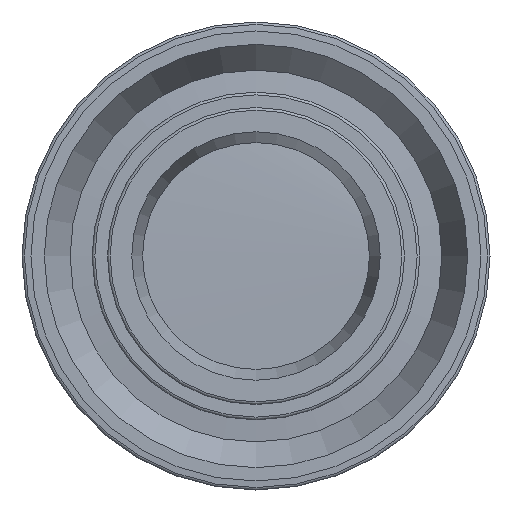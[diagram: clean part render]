
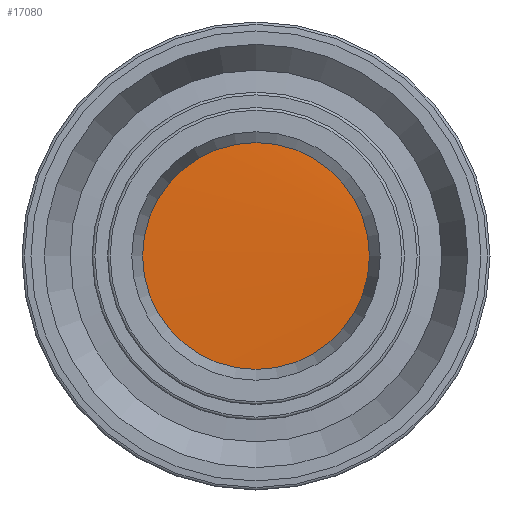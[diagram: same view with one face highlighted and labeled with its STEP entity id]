
A CAD part, left-side view. The second image highlights one B-rep face of the part: STEP entity #17080.
In plain terms, the highlighted cylindrical face has radius 10.45 mm (diameter 20.9 mm), a full revolution.
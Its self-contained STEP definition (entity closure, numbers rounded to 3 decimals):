
#1415=FACE_OUTER_BOUND('',#2396,.T.);
#2396=EDGE_LOOP('',(#11623,#11624,#11625));
#3481=B_SPLINE_CURVE_WITH_KNOTS('',3,(#22396,#22397,#22398,#22399,#22400,
#22401,#22402,#22403,#22404,#22405,#22406,#22407,#22408,#22409,#22410,#22411,
#22412,#22413,#22414,#22415,#22416,#22417,#22418,#22419,#22420,#22421,#22422,
#22423,#22424,#22425,#22426,#22427,#22428,#22429,#22430,#22431,#22432,#22433,
#22434,#22435,#22436,#22437,#22438),.UNSPECIFIED.,.F.,.F.,(4,3,3,3,3,3,
3,3,3,3,3,3,3,3,4),(-34.558,-34.204,-33.711,
-33.218,-32.725,-32.232,-31.739,
-31.246,-30.753,-30.26,-29.767,
-29.274,-28.78,-28.287,-28.274),
 .UNSPECIFIED.);
#4351=LINE('',#22393,#5746);
#4352=LINE('',#22395,#5747);
#5746=VECTOR('',#19051,10.45);
#5747=VECTOR('',#19052,10.45);
#7142=VERTEX_POINT('',#22391);
#7143=VERTEX_POINT('',#22392);
#7144=VERTEX_POINT('',#22394);
#8944=EDGE_CURVE('',#7142,#7143,#4351,.T.);
#8945=EDGE_CURVE('',#7142,#7144,#4352,.T.);
#8946=EDGE_CURVE('',#7144,#7143,#3481,.T.);
#11623=ORIENTED_EDGE('',*,*,#8944,.F.);
#11624=ORIENTED_EDGE('',*,*,#8945,.T.);
#11625=ORIENTED_EDGE('',*,*,#8946,.T.);
#16979=CYLINDRICAL_SURFACE('',#18081,10.45);
#17080=ADVANCED_FACE('',(#1415),#16979,.T.);
#18081=AXIS2_PLACEMENT_3D('',#22390,#19049,#19050);
#19049=DIRECTION('center_axis',(1.,0.,0.));
#19050=DIRECTION('ref_axis',(0.,1.,0.));
#19051=DIRECTION('',(1.,0.,0.));
#19052=DIRECTION('',(-1.,0.,0.));
#22390=CARTESIAN_POINT('Origin',(20.6,0.,0.));
#22391=CARTESIAN_POINT('',(18.6,-10.45,0.));
#22392=CARTESIAN_POINT('',(20.3,-10.45,0.));
#22393=CARTESIAN_POINT('',(20.6,-10.45,0.));
#22394=CARTESIAN_POINT('',(18.5,-10.45,0.));
#22395=CARTESIAN_POINT('',(20.6,-10.45,0.));
#22396=CARTESIAN_POINT('Ctrl Pts',(18.5,-10.45,0.));
#22397=CARTESIAN_POINT('Ctrl Pts',(18.534,-10.449,-1.231));
#22398=CARTESIAN_POINT('Ctrl Pts',(18.568,-10.231,-2.462));
#22399=CARTESIAN_POINT('Ctrl Pts',(18.601,-9.805,-3.617));
#22400=CARTESIAN_POINT('Ctrl Pts',(18.648,-9.211,-5.228));
#22401=CARTESIAN_POINT('Ctrl Pts',(18.695,-8.211,-6.689));
#22402=CARTESIAN_POINT('Ctrl Pts',(18.743,-6.925,-7.827));
#22403=CARTESIAN_POINT('Ctrl Pts',(18.79,-5.639,-8.965));
#22404=CARTESIAN_POINT('Ctrl Pts',(18.837,-4.067,-9.779));
#22405=CARTESIAN_POINT('Ctrl Pts',(18.884,-2.395,-10.173));
#22406=CARTESIAN_POINT('Ctrl Pts',(18.931,-0.724,
-10.566));
#22407=CARTESIAN_POINT('Ctrl Pts',(18.978,1.046,-10.539));
#22408=CARTESIAN_POINT('Ctrl Pts',(19.025,2.705,-10.095));
#22409=CARTESIAN_POINT('Ctrl Pts',(19.072,4.363,-9.65));
#22410=CARTESIAN_POINT('Ctrl Pts',(19.119,5.91,-8.789));
#22411=CARTESIAN_POINT('Ctrl Pts',(19.166,7.161,-7.612));
#22412=CARTESIAN_POINT('Ctrl Pts',(19.213,8.411,-6.436));
#22413=CARTESIAN_POINT('Ctrl Pts',(19.26,9.366,-4.944));
#22414=CARTESIAN_POINT('Ctrl Pts',(19.308,9.911,-3.316));
#22415=CARTESIAN_POINT('Ctrl Pts',(19.355,10.456,-1.688));
#22416=CARTESIAN_POINT('Ctrl Pts',(19.402,10.591,0.078));
#22417=CARTESIAN_POINT('Ctrl Pts',(19.449,10.3,1.77));
#22418=CARTESIAN_POINT('Ctrl Pts',(19.496,10.009,3.462));
#22419=CARTESIAN_POINT('Ctrl Pts',(19.543,9.293,5.081));
#22420=CARTESIAN_POINT('Ctrl Pts',(19.59,8.235,6.434));
#22421=CARTESIAN_POINT('Ctrl Pts',(19.637,7.178,7.787));
#22422=CARTESIAN_POINT('Ctrl Pts',(19.684,5.781,8.874));
#22423=CARTESIAN_POINT('Ctrl Pts',(19.731,4.209,9.566));
#22424=CARTESIAN_POINT('Ctrl Pts',(19.778,2.637,10.257));
#22425=CARTESIAN_POINT('Ctrl Pts',(19.825,0.892,10.553));
#22426=CARTESIAN_POINT('Ctrl Pts',(19.873,-0.82,10.419));
#22427=CARTESIAN_POINT('Ctrl Pts',(19.92,-2.532,10.284));
#22428=CARTESIAN_POINT('Ctrl Pts',(19.967,-4.21,9.718));
#22429=CARTESIAN_POINT('Ctrl Pts',(20.014,-5.654,8.79));
#22430=CARTESIAN_POINT('Ctrl Pts',(20.061,-7.098,7.861));
#22431=CARTESIAN_POINT('Ctrl Pts',(20.108,-8.308,6.568));
#22432=CARTESIAN_POINT('Ctrl Pts',(20.155,-9.141,5.067));
#22433=CARTESIAN_POINT('Ctrl Pts',(20.202,-9.973,3.565));
#22434=CARTESIAN_POINT('Ctrl Pts',(20.249,-10.427,1.854));
#22435=CARTESIAN_POINT('Ctrl Pts',(20.296,-10.45,0.137));
#22436=CARTESIAN_POINT('Ctrl Pts',(20.298,-10.451,0.091));
#22437=CARTESIAN_POINT('Ctrl Pts',(20.299,-10.451,0.046));
#22438=CARTESIAN_POINT('Ctrl Pts',(20.3,-10.451,0.));
